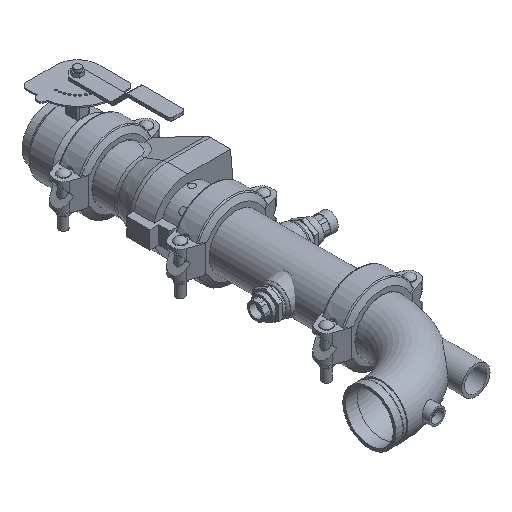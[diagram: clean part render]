
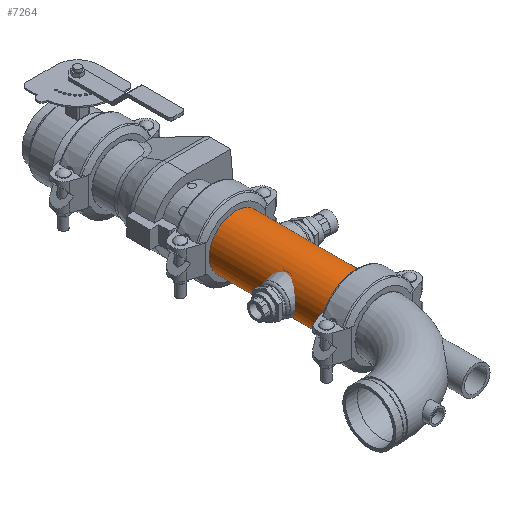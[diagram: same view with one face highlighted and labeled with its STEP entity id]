
A CAD part, isometric view. The second image highlights one B-rep face of the part: STEP entity #7264.
In plain terms, the highlighted cylindrical face has radius 57.15 mm (diameter 114.3 mm), a full revolution.
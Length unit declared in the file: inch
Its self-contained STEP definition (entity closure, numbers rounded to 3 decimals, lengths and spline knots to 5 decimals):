
#176=LINE('',#10995,#719);
#719=VECTOR('',#8732,2.25);
#1262=CYLINDRICAL_SURFACE('',#7849,2.25);
#1499=FACE_OUTER_BOUND('',#1906,.T.);
#1906=EDGE_LOOP('',(#4556,#4557,#4558,#4559,#4560,#4561));
#2398=CIRCLE('',#7847,2.25);
#2399=CIRCLE('',#7848,2.25);
#2400=CIRCLE('',#7850,2.25);
#2401=CIRCLE('',#7851,2.25);
#2815=VERTEX_POINT('',#10986);
#2816=VERTEX_POINT('',#10987);
#2817=VERTEX_POINT('',#10991);
#2818=VERTEX_POINT('',#10992);
#3510=EDGE_CURVE('',#2815,#2816,#2398,.T.);
#3511=EDGE_CURVE('',#2816,#2815,#2399,.T.);
#3512=EDGE_CURVE('',#2817,#2818,#2400,.T.);
#3513=EDGE_CURVE('',#2818,#2817,#2401,.T.);
#3514=EDGE_CURVE('',#2818,#2816,#176,.T.);
#4556=ORIENTED_EDGE('',*,*,#3512,.F.);
#4557=ORIENTED_EDGE('',*,*,#3513,.F.);
#4558=ORIENTED_EDGE('',*,*,#3514,.T.);
#4559=ORIENTED_EDGE('',*,*,#3511,.T.);
#4560=ORIENTED_EDGE('',*,*,#3510,.T.);
#4561=ORIENTED_EDGE('',*,*,#3514,.F.);
#7264=ADVANCED_FACE('',(#1499),#1262,.T.);
#7847=AXIS2_PLACEMENT_3D('',#10988,#8722,#8723);
#7848=AXIS2_PLACEMENT_3D('',#10989,#8724,#8725);
#7849=AXIS2_PLACEMENT_3D('',#10990,#8726,#8727);
#7850=AXIS2_PLACEMENT_3D('',#10993,#8728,#8729);
#7851=AXIS2_PLACEMENT_3D('',#10994,#8730,#8731);
#8722=DIRECTION('center_axis',(1.,0.,0.));
#8723=DIRECTION('ref_axis',(0.,0.,-1.));
#8724=DIRECTION('center_axis',(1.,0.,0.));
#8725=DIRECTION('ref_axis',(0.,0.,-1.));
#8726=DIRECTION('center_axis',(1.,0.,0.));
#8727=DIRECTION('ref_axis',(0.,1.,0.));
#8728=DIRECTION('center_axis',(1.,0.,0.));
#8729=DIRECTION('ref_axis',(0.,0.,-1.));
#8730=DIRECTION('center_axis',(1.,0.,0.));
#8731=DIRECTION('ref_axis',(0.,0.,-1.));
#8732=DIRECTION('',(-1.,0.,0.));
#10986=CARTESIAN_POINT('',(-5.0885,2.25,0.));
#10987=CARTESIAN_POINT('',(-5.0885,-2.25,0.));
#10988=CARTESIAN_POINT('Origin',(-5.0885,0.,0.));
#10989=CARTESIAN_POINT('Origin',(-5.0885,0.,0.));
#10990=CARTESIAN_POINT('Origin',(0.,0.,0.));
#10991=CARTESIAN_POINT('',(5.0885,2.25,0.));
#10992=CARTESIAN_POINT('',(5.0885,-2.25,0.));
#10993=CARTESIAN_POINT('Origin',(5.0885,0.,0.));
#10994=CARTESIAN_POINT('Origin',(5.0885,0.,0.));
#10995=CARTESIAN_POINT('',(0.,-2.25,0.));
